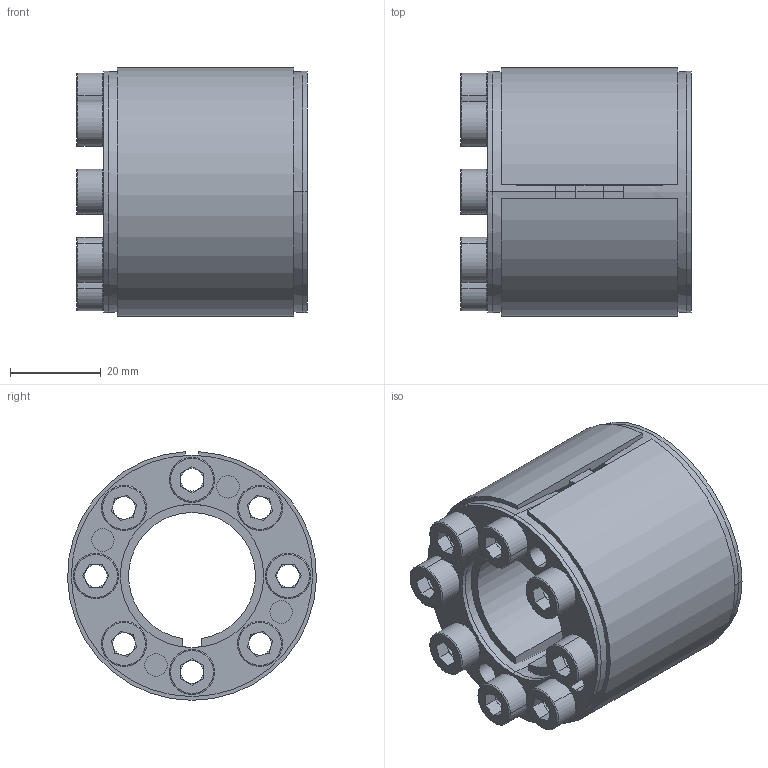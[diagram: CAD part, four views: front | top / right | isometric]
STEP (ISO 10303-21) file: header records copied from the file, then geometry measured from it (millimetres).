
FILE_DESCRIPTION (( 'STEP AP203' ), '1' );
FILE_NAME ('D4-28-55.STEP', '2017-10-14T07:45:09', ( 'MYCOM' ), ( '' ), 'SwSTEP 2.0', 'SolidWorks 2015', '' );
FILE_SCHEMA (( 'CONFIG_CONTROL_DESIGN' ));
Length unit declared in the file: millimetre
Products named in the file (1): D4-28-55
Bounding box: 51 x 54.98 x 54.96 mm (x, y, z)
Surface area: 34148 mm2 (no closed solid volume)
Topology: 0 solids, 13 shells, 227 faces, 626 edges, 410 vertices
Faces by surface type: plane 117, cylinder 69, torus 32, cone 9
Entity records: 7473 total; most frequent: DIRECTION 1393, CARTESIAN_POINT 1318, ORIENTED_EDGE 1113, EDGE_CURVE 626, AXIS2_PLACEMENT_3D 547, VERTEX_POINT 410, CIRCLE 319, LINE 299
